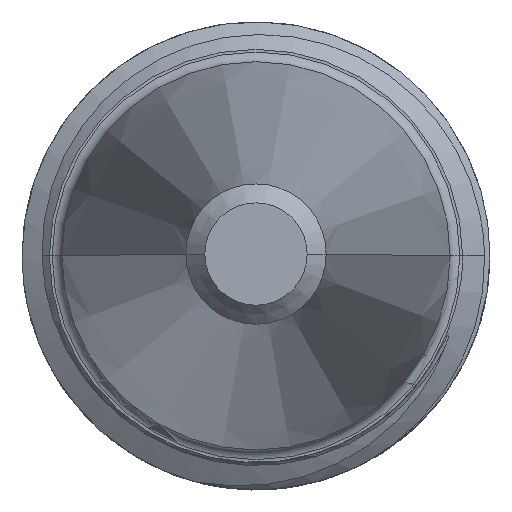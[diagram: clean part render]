
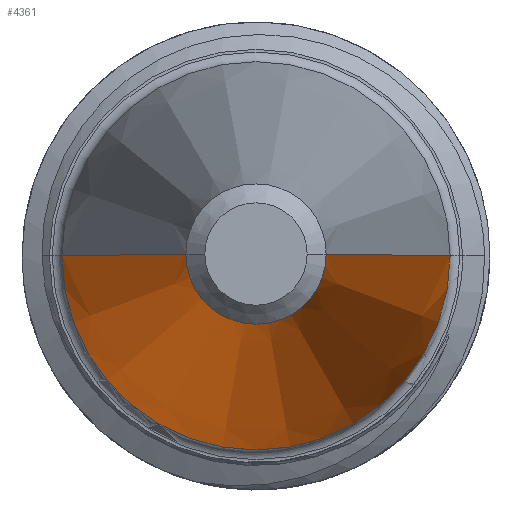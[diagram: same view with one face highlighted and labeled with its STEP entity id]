
A CAD part, top view. The second image highlights one B-rep face of the part: STEP entity #4361.
In plain terms, the highlighted conical face has half-angle 7 degrees and reference radius 5.928 mm.
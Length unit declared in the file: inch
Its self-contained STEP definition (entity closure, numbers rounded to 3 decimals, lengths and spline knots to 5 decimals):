
#698 = EDGE_CURVE ( 'NONE', #1687, #5792, #6598, .T. ) ;
#762 = DIRECTION ( 'NONE',  ( 0., 0., 1. ) ) ;
#1101 = ORIENTED_EDGE ( 'NONE', *, *, #17932, .F. ) ;
#1623 = VERTEX_POINT ( 'NONE', #15359 ) ;
#1687 = VERTEX_POINT ( 'NONE', #18955 ) ;
#1817 = ORIENTED_EDGE ( 'NONE', *, *, #10427, .T. ) ;
#2261 = DIRECTION ( 'NONE',  ( 0., 0., 1. ) ) ;
#3437 = FACE_OUTER_BOUND ( 'NONE', #12796, .T. ) ;
#3562 = CONICAL_SURFACE ( 'NONE', #15109, 0.23338, 0.122 ) ;
#4361 = ADVANCED_FACE ( 'NONE', ( #3437 ), #3562, .T. ) ;
#4941 = AXIS2_PLACEMENT_3D ( 'NONE', #6993, #762, #18339 ) ;
#5792 = VERTEX_POINT ( 'NONE', #6025 ) ;
#6025 = CARTESIAN_POINT ( 'NONE',  ( -0.23338, 0., 0.22817 ) ) ;
#6598 = LINE ( 'NONE', #8513, #10023 ) ;
#6993 = CARTESIAN_POINT ( 'NONE',  ( 0., 0., 0.22817 ) ) ;
#7465 = ORIENTED_EDGE ( 'NONE', *, *, #698, .T. ) ;
#8513 = CARTESIAN_POINT ( 'NONE',  ( -0.23338, 0., 0.22817 ) ) ;
#9453 = ORIENTED_EDGE ( 'NONE', *, *, #18414, .F. ) ;
#9738 = CARTESIAN_POINT ( 'NONE',  ( 0., 0., 0.22817 ) ) ;
#10023 = VECTOR ( 'NONE', #14715, 39.37008 ) ;
#10271 = CIRCLE ( 'NONE', #15852, 0.08432 ) ;
#10358 = DIRECTION ( 'NONE',  ( 0., 0., -1. ) ) ;
#10427 = EDGE_CURVE ( 'NONE', #5792, #11062, #13853, .T. ) ;
#11062 = VERTEX_POINT ( 'NONE', #14028 ) ;
#12796 = EDGE_LOOP ( 'NONE', ( #9453, #1101, #7465, #1817 ) ) ;
#13361 = LINE ( 'NONE', #19661, #16549 ) ;
#13853 = CIRCLE ( 'NONE', #4941, 0.23338 ) ;
#14028 = CARTESIAN_POINT ( 'NONE',  ( 0.23338, 0., 0.22817 ) ) ;
#14457 = CARTESIAN_POINT ( 'NONE',  ( 0., 0., 1.4422 ) ) ;
#14482 = DIRECTION ( 'NONE',  ( 0.122, 0., -0.993 ) ) ;
#14715 = DIRECTION ( 'NONE',  ( -0.122, 0., -0.993 ) ) ;
#14977 = DIRECTION ( 'NONE',  ( 1., 0., 0. ) ) ;
#15109 = AXIS2_PLACEMENT_3D ( 'NONE', #9738, #10358, #19762 ) ;
#15359 = CARTESIAN_POINT ( 'NONE',  ( 0.08432, 0., 1.4422 ) ) ;
#15852 = AXIS2_PLACEMENT_3D ( 'NONE', #14457, #2261, #14977 ) ;
#16549 = VECTOR ( 'NONE', #14482, 39.37008 ) ;
#17932 = EDGE_CURVE ( 'NONE', #1687, #1623, #10271, .T. ) ;
#18339 = DIRECTION ( 'NONE',  ( 1., 0., 0. ) ) ;
#18414 = EDGE_CURVE ( 'NONE', #1623, #11062, #13361, .T. ) ;
#18955 = CARTESIAN_POINT ( 'NONE',  ( -0.08432, 0., 1.4422 ) ) ;
#19661 = CARTESIAN_POINT ( 'NONE',  ( 0.23338, 0., 0.22817 ) ) ;
#19762 = DIRECTION ( 'NONE',  ( -1., 0., 0. ) ) ;
